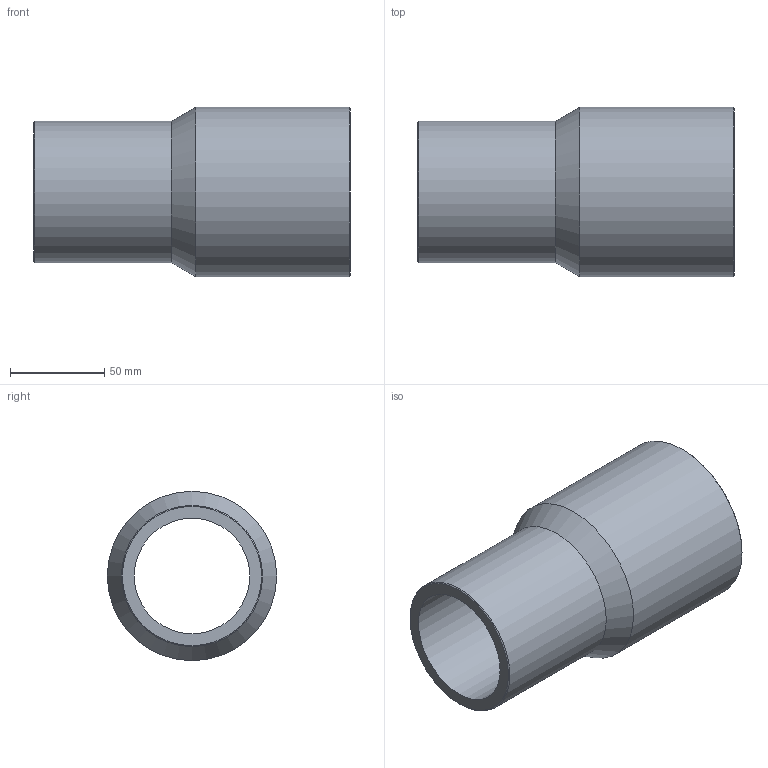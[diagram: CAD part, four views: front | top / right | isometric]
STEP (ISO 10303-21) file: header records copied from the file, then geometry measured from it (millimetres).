
FILE_DESCRIPTION(/* description */ ('Unknown'),/* implementation_level */ '2;1');
FILE_NAME(/* name */ 'RP090075C',/* time_stamp */ '2021-09-17T15:10:13+02:00',/* author */ ('Unknown'),/* organization */ ('Unknown'),/* preprocessor_version */ 'ST-DEVELOPER v16.7',/* originating_system */ 'Solid Edge',/* authorisation */ 'Unknown');
FILE_SCHEMA (('AUTOMOTIVE_DESIGN {1 0 10303 214 3 1 1}'));
Length unit declared in the file: millimetre
Products named in the file (1): RP090075C
Bounding box: 168 x 90 x 90 mm (x, y, z)
Volume: 308043.4 mm3; surface area: 83525.7 mm2
Topology: 1 solids, 1 shells, 10 faces, 19 edges, 11 vertices
Faces by surface type: cylinder 4, cone 4, plane 2
Full cylindrical faces by diameter (mm): 61.4 x1, 73.6 x1, 75 x1, 90 x1
Entity records: 238 total; most frequent: DIRECTION 42, CARTESIAN_POINT 31, AXIS2_PLACEMENT_3D 21, ORIENTED_EDGE 20, EDGE_LOOP 20, FACE_BOUND 20, EDGE_CURVE 10, VERTEX_POINT 10
